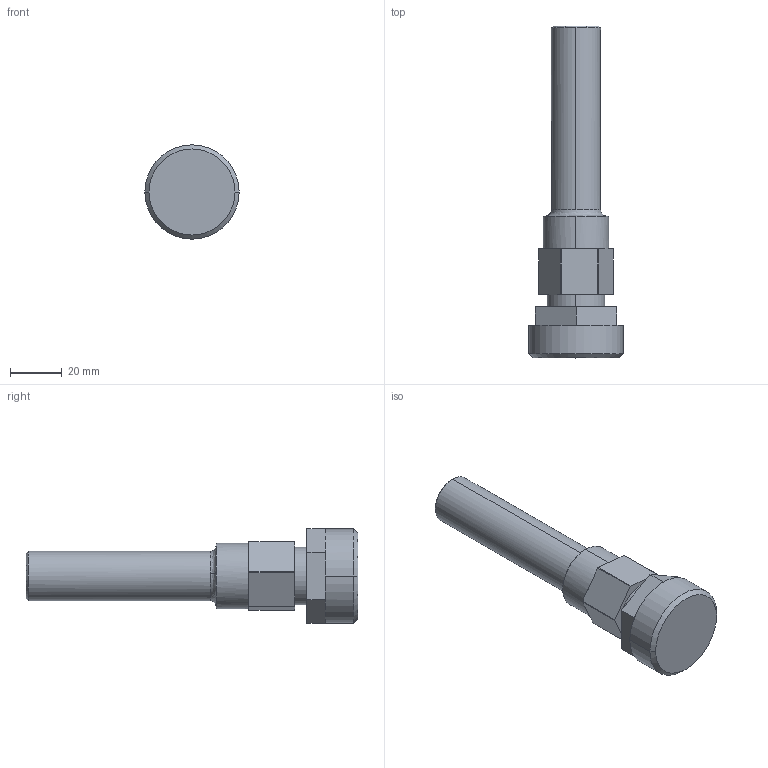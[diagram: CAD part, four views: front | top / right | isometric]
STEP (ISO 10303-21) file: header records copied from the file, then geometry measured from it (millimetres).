
FILE_DESCRIPTION (( 'STEP AP214' ), '1' );
FILE_NAME ('12-tube-out-with-top-mount-adapter.STEP', '2012-11-28T15:10:53', ( '' ), ( '' ), 'SwSTEP 2.0', 'SolidWorks 2012', '' );
FILE_SCHEMA (( 'AUTOMOTIVE_DESIGN' ));
Length unit declared in the file: inch
Products named in the file (1): 12-tube-out-with-top-mount-adapter
Bounding box: 36.6 x 128.85 x 36.66 mm (x, y, z)
Volume: 58748.9 mm3; surface area: 11816.4 mm2
Topology: 1 solids, 1 shells, 55 faces, 128 edges, 78 vertices
Faces by surface type: plane 35, cylinder 14, cone 4, bspline 2
Entity records: 2284 total; most frequent: CARTESIAN_POINT 524, DIRECTION 284, ORIENTED_EDGE 256, EDGE_CURVE 128, AXIS2_PLACEMENT_3D 106, VERTEX_POINT 78, LINE 72, VECTOR 72
